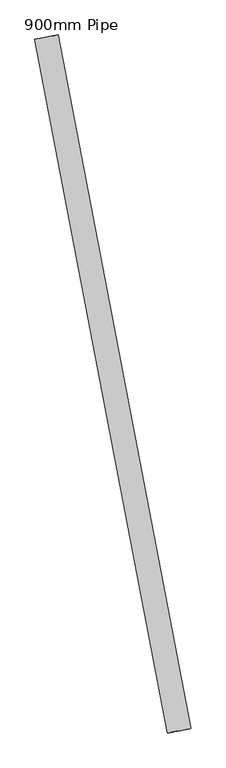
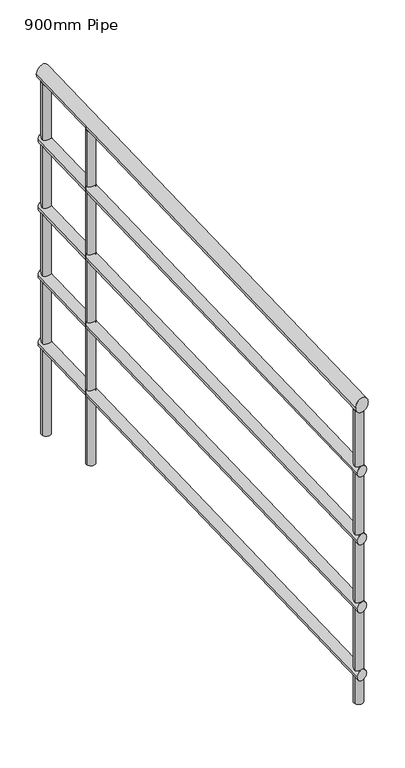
"""IFC4 building model written with IfcOpenShell, lengths in millimetres: railing geometry, 900mm Pipe."""

from ifc_helpers import new_model, si_unit, frame, origin, place, context, project, spatial, circle_curve, ellipse_curve, source, transform, mapped, element, save
from ifc_brep_helpers import plane_surface, cylinder_surface, advanced_brep


def railing_900mm_pipe_2ea46158(model_context):
    return source(origin(), model_context, "Body", "AdvancedBrep", [
        advanced_brep(
        [(967528.309115, -3446.3068773, 9458.386247), (967567.5970704, -3438.7931196, 9458.386247), (967307.2503179, -2290.4340666, 9816.9744823), (967346.5382733, -2282.9203089, 9816.9744823)],
        [
            (0, 1, ellipse_curve(frame((967547.9530927, -3442.5499985, 9458.386247), z_axis=(0.1878439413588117, -0.9821988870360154, 0.0), x_axis=(0.0, 0.0, -0.9999999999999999)), 20.9078706, 20.0)),
            (1, 0, ellipse_curve(frame((967547.9530927, -3442.5499985, 9458.386247), z_axis=(0.1878439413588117, -0.9821988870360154, 0.0), x_axis=(0.0, 0.0, -0.9999999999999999)), 20.9078706, 20.0)),
            (2, 3, ellipse_curve(frame((967326.8942956, -2286.6771877, 9816.9744823), z_axis=(-0.1878439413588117, 0.9821988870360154, 0.0), x_axis=(0.0, 0.0, -0.9999999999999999)), 20.9078706, 20.0)),
            (3, 2, ellipse_curve(frame((967326.8942956, -2286.6771877, 9816.9744823), z_axis=(-0.1878439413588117, 0.9821988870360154, 0.0), x_axis=(0.0, 0.0, -0.9999999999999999)), 20.9078706, 20.0)),
            (0, 2),
            (3, 1),
        ],
        [
            plane_surface(frame((967547.9530927, -3442.5499985, 9479.2941176), z_axis=(0.1878439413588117, -0.9821988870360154, 0.0), x_axis=(0.9821988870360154, 0.1878439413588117, 0.0))),
            plane_surface(frame((967326.8942956, -2286.6771877, 9837.8823529), z_axis=(-0.1878439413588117, 0.9821988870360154, 0.0), x_axis=(0.9821988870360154, 0.1878439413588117, 0.0))),
            cylinder_surface(frame((967546.8580456, -3436.8242133, 9460.1625663), z_axis=(0.1796873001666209, -0.9395494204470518, -0.2914778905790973), x_axis=(0.9821988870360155, 0.1878439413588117, 0.0)), 20.0),
        ],
        [
            (0, [[1, 2]]),
            (1, [[3, 4]]),
            (2, [[-1, 5, -4, 6]]),
            (2, [[-2, -6, -3, -5]]),
        ],
    ),
        advanced_brep(
        [(967533.2201094, -3445.3676576, 9263.6132147), (967562.686076, -3439.7323393, 9263.6132147), (967312.1613123, -2289.4948468, 9622.20145), (967341.6272789, -2283.8595286, 9622.20145)],
        [
            (0, 1, ellipse_curve(frame((967547.9530927, -3442.5499985, 9263.6132147), z_axis=(0.1878439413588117, -0.9821988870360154, 0.0), x_axis=(0.0, 0.0, -0.9999999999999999)), 15.680903, 15.0)),
            (1, 0, ellipse_curve(frame((967547.9530927, -3442.5499985, 9263.6132147), z_axis=(0.1878439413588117, -0.9821988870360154, 0.0), x_axis=(0.0, 0.0, -0.9999999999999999)), 15.680903, 15.0)),
            (2, 3, ellipse_curve(frame((967326.8942956, -2286.6771877, 9622.20145), z_axis=(-0.1878439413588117, 0.9821988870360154, 0.0), x_axis=(0.0, 0.0, -0.9999999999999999)), 15.680903, 15.0)),
            (3, 2, ellipse_curve(frame((967326.8942956, -2286.6771877, 9622.20145), z_axis=(-0.1878439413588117, 0.9821988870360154, 0.0), x_axis=(0.0, 0.0, -0.9999999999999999)), 15.680903, 15.0)),
            (0, 2),
            (3, 1),
        ],
        [
            plane_surface(frame((967547.9530927, -3442.5499985, 9279.2941176), z_axis=(0.1878439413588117, -0.9821988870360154, 0.0), x_axis=(0.9821988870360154, 0.1878439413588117, 0.0))),
            plane_surface(frame((967326.8942956, -2286.6771877, 9637.8823529), z_axis=(-0.1878439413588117, 0.9821988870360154, 0.0), x_axis=(0.9821988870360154, 0.1878439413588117, 0.0))),
            cylinder_surface(frame((967547.1318074, -3438.2556596, 9264.9454542), z_axis=(0.1796873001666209, -0.9395494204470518, -0.2914778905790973), x_axis=(0.9821988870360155, 0.1878439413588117, 0.0)), 15.0),
        ],
        [
            (0, [[1, 2]]),
            (1, [[3, 4]]),
            (2, [[-1, 5, -4, 6]]),
            (2, [[-2, -6, -3, -5]]),
        ],
    ),
        advanced_brep(
        [(967533.2201094, -3445.3676576, 9063.6132147), (967562.686076, -3439.7323393, 9063.6132147), (967312.1613123, -2289.4948468, 9422.20145), (967341.6272789, -2283.8595286, 9422.20145)],
        [
            (0, 1, ellipse_curve(frame((967547.9530927, -3442.5499985, 9063.6132147), z_axis=(0.1878439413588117, -0.9821988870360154, 0.0), x_axis=(0.0, 0.0, -0.9999999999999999)), 15.680903, 15.0)),
            (1, 0, ellipse_curve(frame((967547.9530927, -3442.5499985, 9063.6132147), z_axis=(0.1878439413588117, -0.9821988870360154, 0.0), x_axis=(0.0, 0.0, -0.9999999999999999)), 15.680903, 15.0)),
            (2, 3, ellipse_curve(frame((967326.8942956, -2286.6771877, 9422.20145), z_axis=(-0.1878439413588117, 0.9821988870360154, 0.0), x_axis=(0.0, 0.0, -0.9999999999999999)), 15.680903, 15.0)),
            (3, 2, ellipse_curve(frame((967326.8942956, -2286.6771877, 9422.20145), z_axis=(-0.1878439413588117, 0.9821988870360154, 0.0), x_axis=(0.0, 0.0, -0.9999999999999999)), 15.680903, 15.0)),
            (0, 2),
            (3, 1),
        ],
        [
            plane_surface(frame((967547.9530927, -3442.5499985, 9079.2941176), z_axis=(0.1878439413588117, -0.9821988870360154, 0.0), x_axis=(0.9821988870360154, 0.1878439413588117, 0.0))),
            plane_surface(frame((967326.8942956, -2286.6771877, 9437.8823529), z_axis=(-0.1878439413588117, 0.9821988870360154, 0.0), x_axis=(0.9821988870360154, 0.1878439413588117, 0.0))),
            cylinder_surface(frame((967547.1318074, -3438.2556596, 9064.9454542), z_axis=(0.1796873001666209, -0.9395494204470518, -0.2914778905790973), x_axis=(0.9821988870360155, 0.1878439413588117, 0.0)), 15.0),
        ],
        [
            (0, [[1, 2]]),
            (1, [[3, 4]]),
            (2, [[-1, 5, -4, 6]]),
            (2, [[-2, -6, -3, -5]]),
        ],
    ),
        advanced_brep(
        [(967533.2201094, -3445.3676576, 8863.6132147), (967562.686076, -3439.7323393, 8863.6132147), (967312.1613123, -2289.4948468, 9222.20145), (967341.6272789, -2283.8595286, 9222.20145)],
        [
            (0, 1, ellipse_curve(frame((967547.9530927, -3442.5499985, 8863.6132147), z_axis=(0.1878439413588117, -0.9821988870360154, 0.0), x_axis=(0.0, 0.0, -0.9999999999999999)), 15.680903, 15.0)),
            (1, 0, ellipse_curve(frame((967547.9530927, -3442.5499985, 8863.6132147), z_axis=(0.1878439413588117, -0.9821988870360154, 0.0), x_axis=(0.0, 0.0, -0.9999999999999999)), 15.680903, 15.0)),
            (2, 3, ellipse_curve(frame((967326.8942956, -2286.6771877, 9222.20145), z_axis=(-0.1878439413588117, 0.9821988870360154, 0.0), x_axis=(0.0, 0.0, -0.9999999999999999)), 15.680903, 15.0)),
            (3, 2, ellipse_curve(frame((967326.8942956, -2286.6771877, 9222.20145), z_axis=(-0.1878439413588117, 0.9821988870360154, 0.0), x_axis=(0.0, 0.0, -0.9999999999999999)), 15.680903, 15.0)),
            (0, 2),
            (3, 1),
        ],
        [
            plane_surface(frame((967547.9530927, -3442.5499985, 8879.2941176), z_axis=(0.1878439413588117, -0.9821988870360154, 0.0), x_axis=(0.9821988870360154, 0.1878439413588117, 0.0))),
            plane_surface(frame((967326.8942956, -2286.6771877, 9237.8823529), z_axis=(-0.1878439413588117, 0.9821988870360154, 0.0), x_axis=(0.9821988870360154, 0.1878439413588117, 0.0))),
            cylinder_surface(frame((967547.1318074, -3438.2556596, 8864.9454542), z_axis=(0.1796873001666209, -0.9395494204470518, -0.2914778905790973), x_axis=(0.9821988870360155, 0.1878439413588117, 0.0)), 15.0),
        ],
        [
            (0, [[1, 2]]),
            (1, [[3, 4]]),
            (2, [[-1, 5, -4, 6]]),
            (2, [[-2, -6, -3, -5]]),
        ],
    ),
        advanced_brep(
        [(967533.2201094, -3445.3676576, 8663.6132147), (967562.686076, -3439.7323393, 8663.6132147), (967312.1613123, -2289.4948468, 9022.20145), (967341.6272789, -2283.8595286, 9022.20145)],
        [
            (0, 1, ellipse_curve(frame((967547.9530927, -3442.5499985, 8663.6132147), z_axis=(0.1878439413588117, -0.9821988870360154, 0.0), x_axis=(0.0, 0.0, -0.9999999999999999)), 15.680903, 15.0)),
            (1, 0, ellipse_curve(frame((967547.9530927, -3442.5499985, 8663.6132147), z_axis=(0.1878439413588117, -0.9821988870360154, 0.0), x_axis=(0.0, 0.0, -0.9999999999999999)), 15.680903, 15.0)),
            (2, 3, ellipse_curve(frame((967326.8942956, -2286.6771877, 9022.20145), z_axis=(-0.1878439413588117, 0.9821988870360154, 0.0), x_axis=(0.0, 0.0, -0.9999999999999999)), 15.680903, 15.0)),
            (3, 2, ellipse_curve(frame((967326.8942956, -2286.6771877, 9022.20145), z_axis=(-0.1878439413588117, 0.9821988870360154, 0.0), x_axis=(0.0, 0.0, -0.9999999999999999)), 15.680903, 15.0)),
            (0, 2),
            (3, 1),
        ],
        [
            plane_surface(frame((967547.9530927, -3442.5499985, 8679.2941176), z_axis=(0.1878439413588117, -0.9821988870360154, 0.0), x_axis=(0.9821988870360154, 0.1878439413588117, 0.0))),
            plane_surface(frame((967326.8942956, -2286.6771877, 9037.8823529), z_axis=(-0.1878439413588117, 0.9821988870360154, 0.0), x_axis=(0.9821988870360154, 0.1878439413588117, 0.0))),
            cylinder_surface(frame((967547.1318074, -3438.2556596, 8664.9454542), z_axis=(0.1796873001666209, -0.9395494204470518, -0.2914778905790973), x_axis=(0.9821988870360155, 0.1878439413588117, 0.0)), 15.0),
        ],
        [
            (0, [[1, 2]]),
            (1, [[3, 4]]),
            (2, [[-1, 5, -4, 6]]),
            (2, [[-2, -6, -3, -5]]),
        ],
    ),
        advanced_brep(
        [(967372.3866374, -2458.0030622, 9742.1874779), (967372.3866374, -2458.0030622, 8758.5882353), (967347.8316652, -2462.6991607, 8758.5882353), (967347.8316652, -2462.6991607, 9742.1874779)],
        [
            (0, 1),
            (1, 2, circle_curve(frame((967360.1091513, -2460.3511114, 8758.5882353), z_axis=(0.0, 0.0, 1.0000000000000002), x_axis=(-0.9821988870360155, -0.18784394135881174, 0.0)), 12.5)),
            (2, 3),
            (3, 0, ellipse_curve(frame((967360.1091513, -2460.3511114, 9742.1874779), z_axis=(-0.05475235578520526, 0.28628925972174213, -0.956577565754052), x_axis=(-0.17968730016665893, 0.9395494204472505, 0.2914778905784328)), 13.0674191, 12.5)),
            (0, 3, ellipse_curve(frame((967360.1091513, -2460.3511114, 9742.1874779), z_axis=(-0.05475235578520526, 0.28628925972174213, -0.956577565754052), x_axis=(-0.17968730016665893, 0.9395494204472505, 0.2914778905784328)), 13.0674191, 12.5)),
            (2, 1, circle_curve(frame((967360.1091513, -2460.3511114, 8758.5882353), z_axis=(0.0, 0.0, 1.0000000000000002), x_axis=(-0.9821988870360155, -0.18784394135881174, 0.0)), 12.5)),
        ],
        [
            cylinder_surface(frame((967360.1091513, -2460.3511114, 8658.5882353), z_axis=(0.0, 0.0, 1.0000000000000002), x_axis=(-0.9821988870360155, -0.18784394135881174, 0.0)), 12.5),
            plane_surface(frame((967330.8580806, -2440.4922378, 9749.8052054), z_axis=(0.05475235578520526, -0.28628925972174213, 0.956577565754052), x_axis=(0.9821988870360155, 0.18784394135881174, 0.0))),
            plane_surface(frame((967340.2502777, -2489.6021821, 8758.5882353), z_axis=(0.0, 0.0, -1.0000000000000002), x_axis=(0.9821988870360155, 0.18784394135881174, 0.0))),
        ],
        [
            (0, [[1, 2, 3, 4]]),
            (0, [[-1, 5, -3, 6]]),
            (1, [[-4, -5]]),
            (2, [[-2, -6]]),
        ],
    ),
        advanced_brep(
        [(967341.519831, -2296.6066246, 9792.2577479), (967341.519831, -2296.6066246, 8758.5882353), (967316.9648588, -2301.3027231, 8758.5882353), (967316.9648588, -2301.3027231, 9792.2577479)],
        [
            (0, 1),
            (1, 2, circle_curve(frame((967329.2423449, -2298.9546738, 8758.5882353), z_axis=(0.0, 0.0, 1.0000000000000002), x_axis=(-0.9821988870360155, -0.18784394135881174, 0.0)), 12.5)),
            (2, 3),
            (3, 0, ellipse_curve(frame((967329.2423449, -2298.9546738, 9792.2577479), z_axis=(-0.054752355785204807, 0.2862892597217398, -0.9565775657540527), x_axis=(-0.1796873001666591, 0.9395494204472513, 0.29147789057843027)), 13.0674191, 12.5)),
            (0, 3, ellipse_curve(frame((967329.2423449, -2298.9546738, 9792.2577479), z_axis=(-0.054752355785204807, 0.2862892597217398, -0.9565775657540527), x_axis=(-0.1796873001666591, 0.9395494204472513, 0.29147789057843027)), 13.0674191, 12.5)),
            (2, 1, circle_curve(frame((967329.2423449, -2298.9546738, 8758.5882353), z_axis=(0.0, 0.0, 1.0000000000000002), x_axis=(-0.9821988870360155, -0.18784394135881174, 0.0)), 12.5)),
        ],
        [
            cylinder_surface(frame((967329.2423449, -2298.9546738, 8658.5882353), z_axis=(0.0, 0.0, 1.0000000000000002), x_axis=(-0.9821988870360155, -0.18784394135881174, 0.0)), 12.5),
            plane_surface(frame((967299.9912742, -2279.0958002, 9799.8754754), z_axis=(0.054752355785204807, -0.2862892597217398, 0.9565775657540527), x_axis=(0.9821988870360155, 0.18784394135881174, 0.0))),
            plane_surface(frame((967309.3834712, -2328.2057445, 8758.5882353), z_axis=(0.0, 0.0, -1.0000000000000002), x_axis=(0.9821988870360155, 0.18784394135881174, 0.0))),
        ],
        [
            (0, [[1, 2, 3, 4]]),
            (0, [[-1, 5, -3, 6]]),
            (1, [[-4, -5]]),
            (2, [[-2, -6]]),
        ],
    ),
        advanced_brep(
        [(967557.8825295, -3427.9244631, 9441.2872401), (967557.8825295, -3427.9244631, 8579.2941176), (967533.3275573, -3432.6205616, 8579.2941176), (967533.3275573, -3432.6205616, 9441.2872401)],
        [
            (0, 1),
            (1, 2, circle_curve(frame((967545.6050434, -3430.2725124, 8579.2941176), z_axis=(0.0, 0.0, 1.0000000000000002), x_axis=(-0.9821988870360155, -0.18784394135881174, 0.0)), 12.5)),
            (2, 3),
            (3, 0, ellipse_curve(frame((967545.6050434, -3430.2725124, 9441.2872401), z_axis=(-0.05475235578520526, 0.28628925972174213, -0.956577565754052), x_axis=(-0.17968730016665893, 0.9395494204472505, 0.2914778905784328)), 13.0674191, 12.5)),
            (0, 3, ellipse_curve(frame((967545.6050434, -3430.2725124, 9441.2872401), z_axis=(-0.05475235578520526, 0.28628925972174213, -0.956577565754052), x_axis=(-0.17968730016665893, 0.9395494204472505, 0.2914778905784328)), 13.0674191, 12.5)),
            (2, 1, circle_curve(frame((967545.6050434, -3430.2725124, 8579.2941176), z_axis=(0.0, 0.0, 1.0000000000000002), x_axis=(-0.9821988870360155, -0.18784394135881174, 0.0)), 12.5)),
        ],
        [
            cylinder_surface(frame((967545.6050434, -3430.2725124, 8479.2941176), z_axis=(0.0, 0.0, 1.0000000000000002), x_axis=(-0.9821988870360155, -0.18784394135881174, 0.0)), 12.5),
            plane_surface(frame((967516.3539727, -3410.4136387, 9448.9049677), z_axis=(0.05475235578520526, -0.28628925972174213, 0.956577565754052), x_axis=(0.9821988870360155, 0.18784394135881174, 0.0))),
            plane_surface(frame((967525.7461698, -3459.5235831, 8579.2941176), z_axis=(0.0, 0.0, -1.0000000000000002), x_axis=(0.9821988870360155, 0.18784394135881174, 0.0))),
        ],
        [
            (0, [[1, 2, 3, 4]]),
            (0, [[-1, 5, -3, 6]]),
            (1, [[-4, -5]]),
            (2, [[-2, -6]]),
        ],
    ),
    ])


if __name__ == "__main__":
    model = new_model("IFC4")
    model_context = context("Model", 3, world=origin())
    ifc_project = project(units=[si_unit("LENGTHUNIT", "METRE", prefix="MILLI")], contexts=[model_context])
    site = spatial("IfcSite", under=ifc_project)
    building = spatial("IfcBuilding", under=site)
    placement = place(None, origin())
    railing_900mm_pipe_shape = railing_900mm_pipe_2ea46158(model_context)
    element("IfcRailing", 1, ObjectType="900mm Pipe", at=placement, inside=building, context=model_context, shape_type="MappedRepresentation", body=[
        mapped(railing_900mm_pipe_shape, transform((0.0, 0.0, 0.0), x_axis=(1.0, 0.0, 0.0), y_axis=(0.0, 1.0, 0.0), z_axis=(0.0, 0.0, 1.0))),
    ])
    save(model, "model.ifc")
